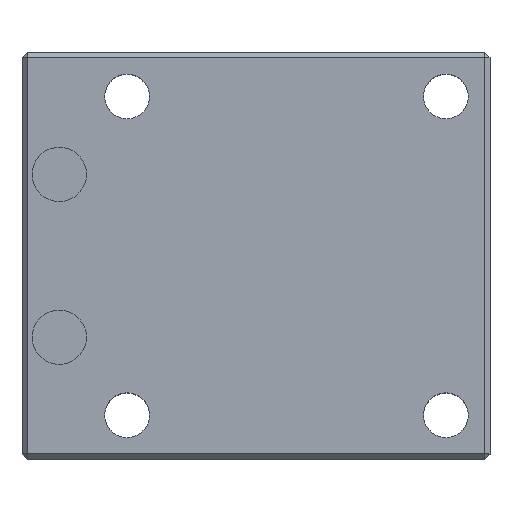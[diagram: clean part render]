
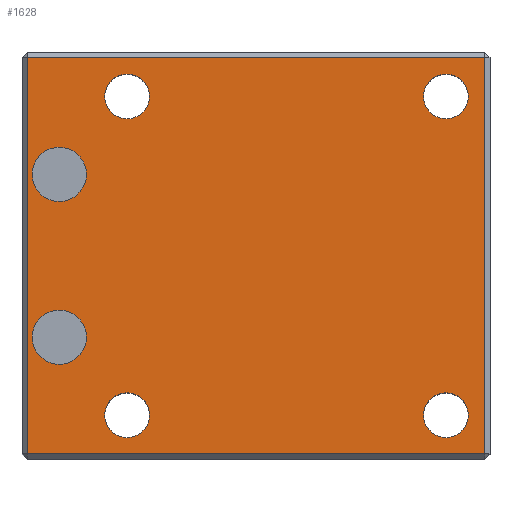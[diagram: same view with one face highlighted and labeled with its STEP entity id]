
A CAD part, top view. The second image highlights one B-rep face of the part: STEP entity #1628.
In plain terms, the highlighted planar face has unit normal (0, 0, 1).
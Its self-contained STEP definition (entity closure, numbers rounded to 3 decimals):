
#2 = ORIENTED_EDGE ( 'NONE', *, *, #691, .T. ) ;
#8 = EDGE_CURVE ( 'NONE', #1596, #1054, #402, .T. ) ;
#20 = AXIS2_PLACEMENT_3D ( 'NONE', #1160, #1025, #398 ) ;
#38 = VERTEX_POINT ( 'NONE', #137 ) ;
#40 = CARTESIAN_POINT ( 'NONE',  ( -37.5, -12., 97. ) ) ;
#52 = VECTOR ( 'NONE', #536, 1000. ) ;
#53 = CARTESIAN_POINT ( 'NONE',  ( -38.2, 29.2, 97. ) ) ;
#56 = AXIS2_PLACEMENT_3D ( 'NONE', #1815, #423, #916 ) ;
#78 = EDGE_CURVE ( 'NONE', #1081, #615, #961, .T. ) ;
#87 = AXIS2_PLACEMENT_3D ( 'NONE', #891, #1515, #1985 ) ;
#99 = LINE ( 'NONE', #1477, #52 ) ;
#104 = CARTESIAN_POINT ( 'NONE',  ( -26.8, 23.5, 97. ) ) ;
#109 = VERTEX_POINT ( 'NONE', #53 ) ;
#125 = FACE_BOUND ( 'NONE', #895, .T. ) ;
#137 = CARTESIAN_POINT ( 'NONE',  ( -29.5, 12., 97. ) ) ;
#149 = CARTESIAN_POINT ( 'NONE',  ( -33.5, 12., 97. ) ) ;
#183 = AXIS2_PLACEMENT_3D ( 'NONE', #149, #1862, #1709 ) ;
#188 = EDGE_LOOP ( 'NONE', ( #240, #1402 ) ) ;
#215 = DIRECTION ( 'NONE',  ( 1., 0., 0. ) ) ;
#219 = CIRCLE ( 'NONE', #87, 3.3 ) ;
#224 = EDGE_LOOP ( 'NONE', ( #249, #812 ) ) ;
#234 = CARTESIAN_POINT ( 'NONE',  ( -29.5, -12., 97. ) ) ;
#240 = ORIENTED_EDGE ( 'NONE', *, *, #1071, .F. ) ;
#243 = VECTOR ( 'NONE', #1354, 1000. ) ;
#245 = AXIS2_PLACEMENT_3D ( 'NONE', #407, #687, #1625 ) ;
#249 = ORIENTED_EDGE ( 'NONE', *, *, #1161, .F. ) ;
#279 = ORIENTED_EDGE ( 'NONE', *, *, #1514, .F. ) ;
#283 = VERTEX_POINT ( 'NONE', #1636 ) ;
#289 = LINE ( 'NONE', #1857, #243 ) ;
#290 = FACE_BOUND ( 'NONE', #559, .T. ) ;
#302 = CARTESIAN_POINT ( 'NONE',  ( -33.5, -12., 97. ) ) ;
#331 = DIRECTION ( 'NONE',  ( 0., 0., 1. ) ) ;
#339 = EDGE_CURVE ( 'NONE', #1054, #1961, #289, .T. ) ;
#340 = LINE ( 'NONE', #1727, #645 ) ;
#347 = AXIS2_PLACEMENT_3D ( 'NONE', #878, #1349, #1694 ) ;
#358 = DIRECTION ( 'NONE',  ( 1., 0., 0. ) ) ;
#384 = DIRECTION ( 'NONE',  ( 1., 0., 0. ) ) ;
#398 = DIRECTION ( 'NONE',  ( 1., 0., 0. ) ) ;
#402 = LINE ( 'NONE', #414, #1166 ) ;
#406 = ORIENTED_EDGE ( 'NONE', *, *, #8, .T. ) ;
#407 = CARTESIAN_POINT ( 'NONE',  ( -23.5, 23.5, 97. ) ) ;
#411 = AXIS2_PLACEMENT_3D ( 'NONE', #715, #1186, #1485 ) ;
#414 = CARTESIAN_POINT ( 'NONE',  ( 30., -29.2, 97. ) ) ;
#423 = DIRECTION ( 'NONE',  ( 0., 0., 1. ) ) ;
#441 = AXIS2_PLACEMENT_3D ( 'NONE', #1242, #1444, #215 ) ;
#474 = VERTEX_POINT ( 'NONE', #40 ) ;
#475 = DIRECTION ( 'NONE',  ( 0., 0., 1. ) ) ;
#495 = DIRECTION ( 'NONE',  ( 1., 0., 0. ) ) ;
#506 = EDGE_LOOP ( 'NONE', ( #1424, #640 ) ) ;
#536 = DIRECTION ( 'NONE',  ( 0., -1., 0. ) ) ;
#546 = ORIENTED_EDGE ( 'NONE', *, *, #78, .F. ) ;
#552 = EDGE_CURVE ( 'NONE', #1191, #283, #638, .T. ) ;
#556 = EDGE_LOOP ( 'NONE', ( #279, #1396 ) ) ;
#559 = EDGE_LOOP ( 'NONE', ( #805, #1593 ) ) ;
#590 = EDGE_CURVE ( 'NONE', #1146, #1632, #1259, .T. ) ;
#591 = VERTEX_POINT ( 'NONE', #234 ) ;
#594 = PLANE ( 'NONE',  #56 ) ;
#609 = CIRCLE ( 'NONE', #347, 3.3 ) ;
#615 = VERTEX_POINT ( 'NONE', #1656 ) ;
#638 = CIRCLE ( 'NONE', #1417, 3.3 ) ;
#640 = ORIENTED_EDGE ( 'NONE', *, *, #694, .F. ) ;
#645 = VECTOR ( 'NONE', #1409, 1000. ) ;
#674 = AXIS2_PLACEMENT_3D ( 'NONE', #1411, #475, #495 ) ;
#687 = DIRECTION ( 'NONE',  ( 0., 0., 1. ) ) ;
#691 = EDGE_CURVE ( 'NONE', #109, #1596, #99, .T. ) ;
#694 = EDGE_CURVE ( 'NONE', #1632, #1146, #1196, .T. ) ;
#715 = CARTESIAN_POINT ( 'NONE',  ( -23.5, -23.5, 97. ) ) ;
#739 = CIRCLE ( 'NONE', #1877, 4. ) ;
#805 = ORIENTED_EDGE ( 'NONE', *, *, #1425, .F. ) ;
#812 = ORIENTED_EDGE ( 'NONE', *, *, #1675, .F. ) ;
#823 = VERTEX_POINT ( 'NONE', #1810 ) ;
#839 = CIRCLE ( 'NONE', #1980, 3.3 ) ;
#858 = CARTESIAN_POINT ( 'NONE',  ( 29.2, -29.2, 97. ) ) ;
#878 = CARTESIAN_POINT ( 'NONE',  ( 23.5, -23.5, 97. ) ) ;
#890 = EDGE_CURVE ( 'NONE', #1310, #38, #1941, .T. ) ;
#891 = CARTESIAN_POINT ( 'NONE',  ( 23.5, 23.5, 97. ) ) ;
#895 = EDGE_LOOP ( 'NONE', ( #546, #1369 ) ) ;
#905 = DIRECTION ( 'NONE',  ( 1., 0., 0. ) ) ;
#916 = DIRECTION ( 'NONE',  ( 1., 0., 0. ) ) ;
#961 = CIRCLE ( 'NONE', #441, 3.3 ) ;
#1025 = DIRECTION ( 'NONE',  ( 0., 0., 1. ) ) ;
#1041 = FACE_OUTER_BOUND ( 'NONE', #1165, .T. ) ;
#1054 = VERTEX_POINT ( 'NONE', #858 ) ;
#1071 = EDGE_CURVE ( 'NONE', #283, #1191, #1289, .T. ) ;
#1081 = VERTEX_POINT ( 'NONE', #1464 ) ;
#1124 = DIRECTION ( 'NONE',  ( 1., 0., 0. ) ) ;
#1146 = VERTEX_POINT ( 'NONE', #1601 ) ;
#1160 = CARTESIAN_POINT ( 'NONE',  ( -23.5, 23.5, 97. ) ) ;
#1161 = EDGE_CURVE ( 'NONE', #823, #1797, #609, .T. ) ;
#1165 = EDGE_LOOP ( 'NONE', ( #1623, #1820, #2, #406 ) ) ;
#1166 = VECTOR ( 'NONE', #1648, 1000. ) ;
#1186 = DIRECTION ( 'NONE',  ( 0., 0., 1. ) ) ;
#1191 = VERTEX_POINT ( 'NONE', #1193 ) ;
#1193 = CARTESIAN_POINT ( 'NONE',  ( -26.8, -23.5, 97. ) ) ;
#1196 = CIRCLE ( 'NONE', #245, 3.3 ) ;
#1202 = FACE_BOUND ( 'NONE', #188, .T. ) ;
#1241 = CARTESIAN_POINT ( 'NONE',  ( 20.2, -23.5, 97. ) ) ;
#1242 = CARTESIAN_POINT ( 'NONE',  ( 23.5, 23.5, 97. ) ) ;
#1259 = CIRCLE ( 'NONE', #20, 3.3 ) ;
#1289 = CIRCLE ( 'NONE', #411, 3.3 ) ;
#1310 = VERTEX_POINT ( 'NONE', #1563 ) ;
#1315 = CARTESIAN_POINT ( 'NONE',  ( 29.2, 29.2, 97. ) ) ;
#1317 = DIRECTION ( 'NONE',  ( 0., 0., 1. ) ) ;
#1338 = FACE_BOUND ( 'NONE', #506, .T. ) ;
#1346 = DIRECTION ( 'NONE',  ( 0., 0., 1. ) ) ;
#1349 = DIRECTION ( 'NONE',  ( 0., 0., 1. ) ) ;
#1354 = DIRECTION ( 'NONE',  ( 0., 1., 0. ) ) ;
#1360 = EDGE_CURVE ( 'NONE', #1961, #109, #340, .T. ) ;
#1364 = EDGE_CURVE ( 'NONE', #474, #591, #739, .T. ) ;
#1369 = ORIENTED_EDGE ( 'NONE', *, *, #1693, .F. ) ;
#1390 = CIRCLE ( 'NONE', #1591, 4. ) ;
#1396 = ORIENTED_EDGE ( 'NONE', *, *, #1364, .F. ) ;
#1402 = ORIENTED_EDGE ( 'NONE', *, *, #552, .F. ) ;
#1409 = DIRECTION ( 'NONE',  ( -1., 0., 0. ) ) ;
#1411 = CARTESIAN_POINT ( 'NONE',  ( -33.5, 12., 97. ) ) ;
#1417 = AXIS2_PLACEMENT_3D ( 'NONE', #1737, #1752, #358 ) ;
#1424 = ORIENTED_EDGE ( 'NONE', *, *, #590, .F. ) ;
#1425 = EDGE_CURVE ( 'NONE', #38, #1310, #1655, .T. ) ;
#1444 = DIRECTION ( 'NONE',  ( 0., 0., 1. ) ) ;
#1464 = CARTESIAN_POINT ( 'NONE',  ( 26.8, 23.5, 97. ) ) ;
#1477 = CARTESIAN_POINT ( 'NONE',  ( -38.2, -30., 97. ) ) ;
#1485 = DIRECTION ( 'NONE',  ( 1., 0., 0. ) ) ;
#1502 = FACE_BOUND ( 'NONE', #224, .T. ) ;
#1514 = EDGE_CURVE ( 'NONE', #591, #474, #1390, .T. ) ;
#1515 = DIRECTION ( 'NONE',  ( 0., 0., 1. ) ) ;
#1563 = CARTESIAN_POINT ( 'NONE',  ( -37.5, 12., 97. ) ) ;
#1591 = AXIS2_PLACEMENT_3D ( 'NONE', #1755, #1317, #384 ) ;
#1593 = ORIENTED_EDGE ( 'NONE', *, *, #890, .F. ) ;
#1596 = VERTEX_POINT ( 'NONE', #1910 ) ;
#1601 = CARTESIAN_POINT ( 'NONE',  ( -20.2, 23.5, 97. ) ) ;
#1623 = ORIENTED_EDGE ( 'NONE', *, *, #339, .T. ) ;
#1625 = DIRECTION ( 'NONE',  ( 1., 0., 0. ) ) ;
#1628 = ADVANCED_FACE ( 'NONE', ( #1041, #1202, #1502, #125, #1338, #290, #1996 ), #594, .T. ) ;
#1632 = VERTEX_POINT ( 'NONE', #104 ) ;
#1636 = CARTESIAN_POINT ( 'NONE',  ( -20.2, -23.5, 97. ) ) ;
#1648 = DIRECTION ( 'NONE',  ( 1., 0., 0. ) ) ;
#1655 = CIRCLE ( 'NONE', #183, 4. ) ;
#1656 = CARTESIAN_POINT ( 'NONE',  ( 20.2, 23.5, 97. ) ) ;
#1675 = EDGE_CURVE ( 'NONE', #1797, #823, #839, .T. ) ;
#1693 = EDGE_CURVE ( 'NONE', #615, #1081, #219, .T. ) ;
#1694 = DIRECTION ( 'NONE',  ( 1., 0., 0. ) ) ;
#1709 = DIRECTION ( 'NONE',  ( 1., 0., 0. ) ) ;
#1727 = CARTESIAN_POINT ( 'NONE',  ( -39., 29.2, 97. ) ) ;
#1737 = CARTESIAN_POINT ( 'NONE',  ( -23.5, -23.5, 97. ) ) ;
#1752 = DIRECTION ( 'NONE',  ( 0., 0., 1. ) ) ;
#1755 = CARTESIAN_POINT ( 'NONE',  ( -33.5, -12., 97. ) ) ;
#1797 = VERTEX_POINT ( 'NONE', #1241 ) ;
#1810 = CARTESIAN_POINT ( 'NONE',  ( 26.8, -23.5, 97. ) ) ;
#1815 = CARTESIAN_POINT ( 'NONE',  ( 0., 0., 97. ) ) ;
#1820 = ORIENTED_EDGE ( 'NONE', *, *, #1360, .T. ) ;
#1857 = CARTESIAN_POINT ( 'NONE',  ( 29.2, 30., 97. ) ) ;
#1862 = DIRECTION ( 'NONE',  ( 0., 0., 1. ) ) ;
#1877 = AXIS2_PLACEMENT_3D ( 'NONE', #302, #331, #1124 ) ;
#1910 = CARTESIAN_POINT ( 'NONE',  ( -38.2, -29.2, 97. ) ) ;
#1941 = CIRCLE ( 'NONE', #674, 4. ) ;
#1961 = VERTEX_POINT ( 'NONE', #1315 ) ;
#1969 = CARTESIAN_POINT ( 'NONE',  ( 23.5, -23.5, 97. ) ) ;
#1980 = AXIS2_PLACEMENT_3D ( 'NONE', #1969, #1346, #905 ) ;
#1985 = DIRECTION ( 'NONE',  ( 1., 0., 0. ) ) ;
#1996 = FACE_BOUND ( 'NONE', #556, .T. ) ;
